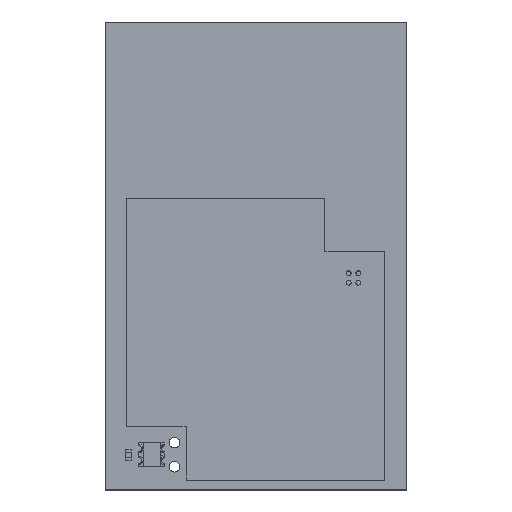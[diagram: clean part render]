
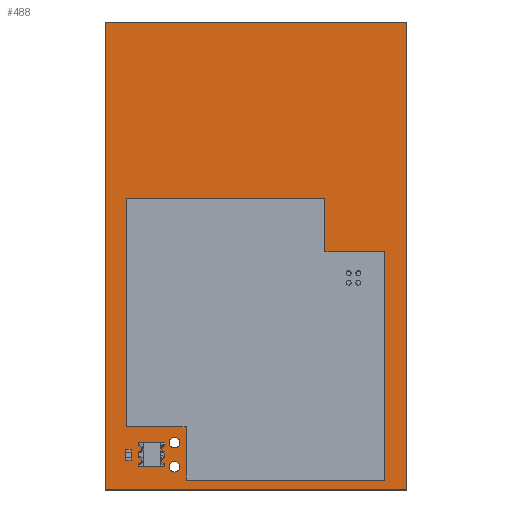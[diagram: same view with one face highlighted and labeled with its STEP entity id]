
A CAD part, top view. The second image highlights one B-rep face of the part: STEP entity #488.
In plain terms, the highlighted planar face has unit normal (0, 0, 1).
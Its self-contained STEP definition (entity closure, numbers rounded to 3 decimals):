
#255 = VERTEX_POINT('',#256);
#256 = CARTESIAN_POINT('',(-22.53,-25.883,0.797));
#262 = EDGE_CURVE('',#255,#263,#265,.T.);
#263 = VERTEX_POINT('',#264);
#264 = CARTESIAN_POINT('',(-22.53,-0.483,0.797));
#265 = LINE('',#266,#267);
#266 = CARTESIAN_POINT('',(-22.53,-25.883,0.797));
#267 = VECTOR('',#268,1.);
#268 = DIRECTION('',(0.,1.,0.));
#293 = EDGE_CURVE('',#263,#294,#296,.T.);
#294 = VERTEX_POINT('',#295);
#295 = CARTESIAN_POINT('',(-22.53,13.517,0.797));
#296 = LINE('',#297,#298);
#297 = CARTESIAN_POINT('',(-22.53,-0.483,0.797));
#298 = VECTOR('',#299,1.);
#299 = DIRECTION('',(0.,1.,0.));
#324 = EDGE_CURVE('',#294,#325,#327,.T.);
#325 = VERTEX_POINT('',#326);
#326 = CARTESIAN_POINT('',(2.87,13.517,0.797));
#327 = LINE('',#328,#329);
#328 = CARTESIAN_POINT('',(-22.53,13.517,0.797));
#329 = VECTOR('',#330,1.);
#330 = DIRECTION('',(1.,0.,0.));
#355 = EDGE_CURVE('',#325,#356,#358,.T.);
#356 = VERTEX_POINT('',#357);
#357 = CARTESIAN_POINT('',(2.87,-25.883,0.797));
#358 = LINE('',#359,#360);
#359 = CARTESIAN_POINT('',(2.87,13.517,0.797));
#360 = VECTOR('',#361,1.);
#361 = DIRECTION('',(0.,-1.,0.));
#386 = EDGE_CURVE('',#356,#255,#387,.T.);
#387 = LINE('',#388,#389);
#388 = CARTESIAN_POINT('',(2.87,-25.883,0.797));
#389 = VECTOR('',#390,1.);
#390 = DIRECTION('',(-1.,0.,0.));
#410 = VERTEX_POINT('',#411);
#411 = CARTESIAN_POINT('',(-16.243,-23.927,0.797));
#417 = EDGE_CURVE('',#410,#410,#418,.T.);
#418 = CIRCLE('',#419,0.445);
#419 = AXIS2_PLACEMENT_3D('',#420,#421,#422);
#420 = CARTESIAN_POINT('',(-16.688,-23.927,0.797));
#421 = DIRECTION('',(0.,0.,1.));
#422 = DIRECTION('',(1.,0.,0.));
#443 = VERTEX_POINT('',#444);
#444 = CARTESIAN_POINT('',(-16.243,-21.895,0.797));
#450 = EDGE_CURVE('',#443,#443,#451,.T.);
#451 = CIRCLE('',#452,0.445);
#452 = AXIS2_PLACEMENT_3D('',#453,#454,#455);
#453 = CARTESIAN_POINT('',(-16.688,-21.895,0.797));
#454 = DIRECTION('',(0.,0.,1.));
#455 = DIRECTION('',(1.,0.,0.));
#488 = ADVANCED_FACE('',(#489,#496,#499),#502,.T.);
#489 = FACE_BOUND('',#490,.F.);
#490 = EDGE_LOOP('',(#491,#492,#493,#494,#495));
#491 = ORIENTED_EDGE('',*,*,#262,.T.);
#492 = ORIENTED_EDGE('',*,*,#293,.T.);
#493 = ORIENTED_EDGE('',*,*,#324,.T.);
#494 = ORIENTED_EDGE('',*,*,#355,.T.);
#495 = ORIENTED_EDGE('',*,*,#386,.T.);
#496 = FACE_BOUND('',#497,.T.);
#497 = EDGE_LOOP('',(#498));
#498 = ORIENTED_EDGE('',*,*,#417,.F.);
#499 = FACE_BOUND('',#500,.T.);
#500 = EDGE_LOOP('',(#501));
#501 = ORIENTED_EDGE('',*,*,#450,.F.);
#502 = PLANE('',#503);
#503 = AXIS2_PLACEMENT_3D('',#504,#505,#506);
#504 = CARTESIAN_POINT('',(-22.53,-25.883,0.797));
#505 = DIRECTION('',(0.,0.,1.));
#506 = DIRECTION('',(1.,0.,0.));
